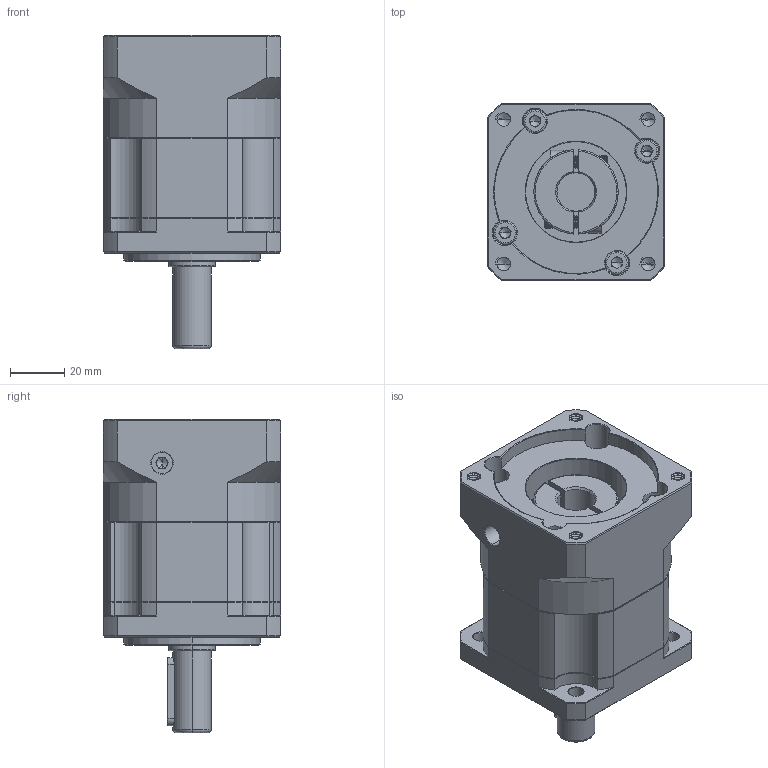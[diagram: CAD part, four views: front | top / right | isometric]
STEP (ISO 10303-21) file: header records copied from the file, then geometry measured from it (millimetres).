
FILE_DESCRIPTION (( 'STEP AP214' ), '1' );
FILE_NAME ('ZB060-D14-L1-P2-14-60-75-M6.step', '2023-08-16T06:59:59', ( '' ), ( '' ), 'SwSTEP 2.0', 'SolidWorks 2016', '' );
FILE_SCHEMA (( 'AUTOMOTIVE_DESIGN' ));
Length unit declared in the file: millimetre
Products named in the file (1): ZB060-D14-L1-P2-14-60-75-M6
Bounding box: 65 x 65 x 115 mm (x, y, z)
Volume: 264305.7 mm3; surface area: 54841.7 mm2
Topology: 6 solids, 6 shells, 2158 faces, 5813 edges, 3739 vertices
Faces by surface type: plane 1059, bspline 397, cylinder 382, cone 284, torus 36
Entity records: 116376 total; most frequent: CARTESIAN_POINT 41515, ORIENTED_EDGE 11566, DIRECTION 9158, EDGE_CURVE 5783, VERTEX_POINT 3739, VECTOR 3658, LINE 3658, AXIS2_PLACEMENT_3D 2750
